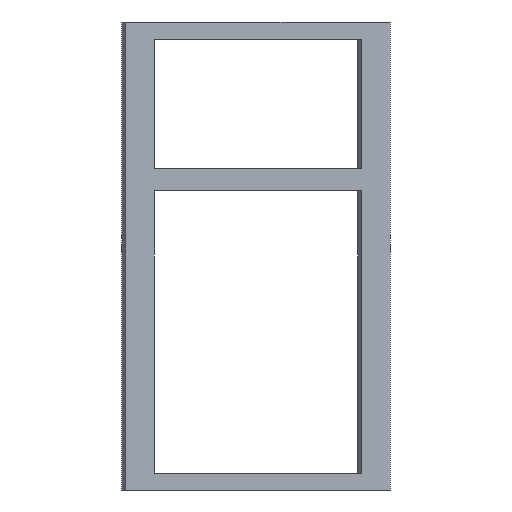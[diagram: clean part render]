
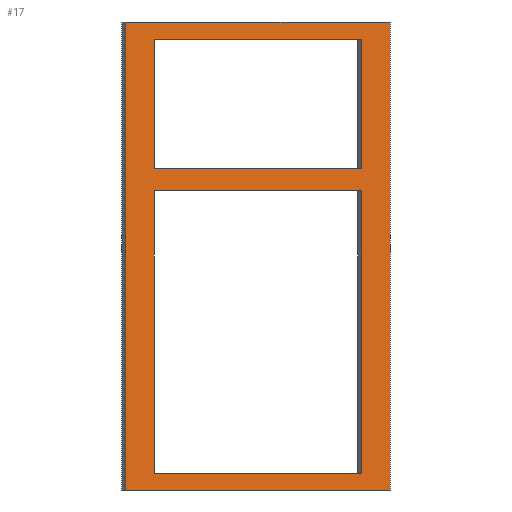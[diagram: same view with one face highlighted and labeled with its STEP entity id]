
A CAD part, front view. The second image highlights one B-rep face of the part: STEP entity #17.
In plain terms, the highlighted planar face has unit normal (0.175, -0.985, 0).
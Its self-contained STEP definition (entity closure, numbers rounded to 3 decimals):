
#17 = ADVANCED_FACE('',(#18,#52,#86),#120,.F.);
#18 = FACE_BOUND('',#19,.F.);
#19 = EDGE_LOOP('',(#20,#30,#38,#46));
#20 = ORIENTED_EDGE('',*,*,#21,.F.);
#21 = EDGE_CURVE('',#22,#24,#26,.T.);
#22 = VERTEX_POINT('',#23);
#23 = CARTESIAN_POINT('',(-1.553,9.576,-2.525));
#24 = VERTEX_POINT('',#25);
#25 = CARTESIAN_POINT('',(-1.553,9.576,2.525));
#26 = LINE('',#27,#28);
#27 = CARTESIAN_POINT('',(-1.553,9.576,-2.525));
#28 = VECTOR('',#29,1.);
#29 = DIRECTION('',(0.,0.,1.));
#30 = ORIENTED_EDGE('',*,*,#31,.T.);
#31 = EDGE_CURVE('',#22,#32,#34,.T.);
#32 = VERTEX_POINT('',#33);
#33 = CARTESIAN_POINT('',(-4.408,9.067,-2.525));
#34 = LINE('',#35,#36);
#35 = CARTESIAN_POINT('',(-1.553,9.576,-2.525));
#36 = VECTOR('',#37,1.);
#37 = DIRECTION('',(-0.985,-0.175,0.));
#38 = ORIENTED_EDGE('',*,*,#39,.T.);
#39 = EDGE_CURVE('',#32,#40,#42,.T.);
#40 = VERTEX_POINT('',#41);
#41 = CARTESIAN_POINT('',(-4.408,9.067,2.525));
#42 = LINE('',#43,#44);
#43 = CARTESIAN_POINT('',(-4.408,9.067,-2.525));
#44 = VECTOR('',#45,1.);
#45 = DIRECTION('',(0.,0.,1.));
#46 = ORIENTED_EDGE('',*,*,#47,.F.);
#47 = EDGE_CURVE('',#24,#40,#48,.T.);
#48 = LINE('',#49,#50);
#49 = CARTESIAN_POINT('',(-1.553,9.576,2.525));
#50 = VECTOR('',#51,1.);
#51 = DIRECTION('',(-0.985,-0.175,0.));
#52 = FACE_BOUND('',#53,.F.);
#53 = EDGE_LOOP('',(#54,#64,#72,#80));
#54 = ORIENTED_EDGE('',*,*,#55,.T.);
#55 = EDGE_CURVE('',#56,#58,#60,.T.);
#56 = VERTEX_POINT('',#57);
#57 = CARTESIAN_POINT('',(-4.098,9.123,-2.347));
#58 = VERTEX_POINT('',#59);
#59 = CARTESIAN_POINT('',(-1.864,9.521,-2.347));
#60 = LINE('',#61,#62);
#61 = CARTESIAN_POINT('',(-1.708,9.548,-2.347));
#62 = VECTOR('',#63,1.);
#63 = DIRECTION('',(0.985,0.175,0.));
#64 = ORIENTED_EDGE('',*,*,#65,.T.);
#65 = EDGE_CURVE('',#58,#66,#68,.T.);
#66 = VERTEX_POINT('',#67);
#67 = CARTESIAN_POINT('',(-1.864,9.521,0.703));
#68 = LINE('',#69,#70);
#69 = CARTESIAN_POINT('',(-1.864,9.521,-2.436));
#70 = VECTOR('',#71,1.);
#71 = DIRECTION('',(0.,0.,1.));
#72 = ORIENTED_EDGE('',*,*,#73,.F.);
#73 = EDGE_CURVE('',#74,#66,#76,.T.);
#74 = VERTEX_POINT('',#75);
#75 = CARTESIAN_POINT('',(-4.098,9.123,0.703));
#76 = LINE('',#77,#78);
#77 = CARTESIAN_POINT('',(-1.708,9.548,0.703));
#78 = VECTOR('',#79,1.);
#79 = DIRECTION('',(0.985,0.175,0.));
#80 = ORIENTED_EDGE('',*,*,#81,.F.);
#81 = EDGE_CURVE('',#56,#74,#82,.T.);
#82 = LINE('',#83,#84);
#83 = CARTESIAN_POINT('',(-4.098,9.123,-2.436));
#84 = VECTOR('',#85,1.);
#85 = DIRECTION('',(0.,0.,1.));
#86 = FACE_BOUND('',#87,.F.);
#87 = EDGE_LOOP('',(#88,#98,#106,#114));
#88 = ORIENTED_EDGE('',*,*,#89,.T.);
#89 = EDGE_CURVE('',#90,#92,#94,.T.);
#90 = VERTEX_POINT('',#91);
#91 = CARTESIAN_POINT('',(-4.098,9.123,0.943));
#92 = VERTEX_POINT('',#93);
#93 = CARTESIAN_POINT('',(-1.864,9.521,0.943));
#94 = LINE('',#95,#96);
#95 = CARTESIAN_POINT('',(-1.708,9.548,0.943));
#96 = VECTOR('',#97,1.);
#97 = DIRECTION('',(0.985,0.175,0.));
#98 = ORIENTED_EDGE('',*,*,#99,.T.);
#99 = EDGE_CURVE('',#92,#100,#102,.T.);
#100 = VERTEX_POINT('',#101);
#101 = CARTESIAN_POINT('',(-1.864,9.521,2.337));
#102 = LINE('',#103,#104);
#103 = CARTESIAN_POINT('',(-1.864,9.521,-0.791));
#104 = VECTOR('',#105,1.);
#105 = DIRECTION('',(0.,0.,1.));
#106 = ORIENTED_EDGE('',*,*,#107,.F.);
#107 = EDGE_CURVE('',#108,#100,#110,.T.);
#108 = VERTEX_POINT('',#109);
#109 = CARTESIAN_POINT('',(-4.098,9.123,2.337));
#110 = LINE('',#111,#112);
#111 = CARTESIAN_POINT('',(-1.708,9.548,2.337));
#112 = VECTOR('',#113,1.);
#113 = DIRECTION('',(0.985,0.175,0.));
#114 = ORIENTED_EDGE('',*,*,#115,.F.);
#115 = EDGE_CURVE('',#90,#108,#116,.T.);
#116 = LINE('',#117,#118);
#117 = CARTESIAN_POINT('',(-4.098,9.123,-0.791));
#118 = VECTOR('',#119,1.);
#119 = DIRECTION('',(0.,0.,1.));
#120 = PLANE('',#121);
#121 = AXIS2_PLACEMENT_3D('',#122,#123,#124);
#122 = CARTESIAN_POINT('',(-1.553,9.576,-2.525));
#123 = DIRECTION('',(-0.175,0.985,0.));
#124 = DIRECTION('',(0.,0.,1.));
